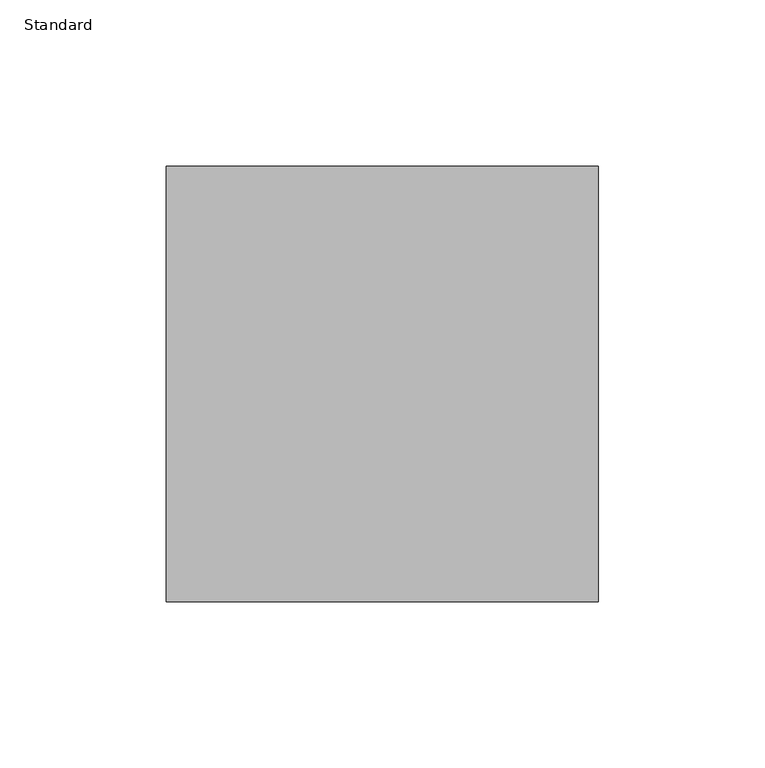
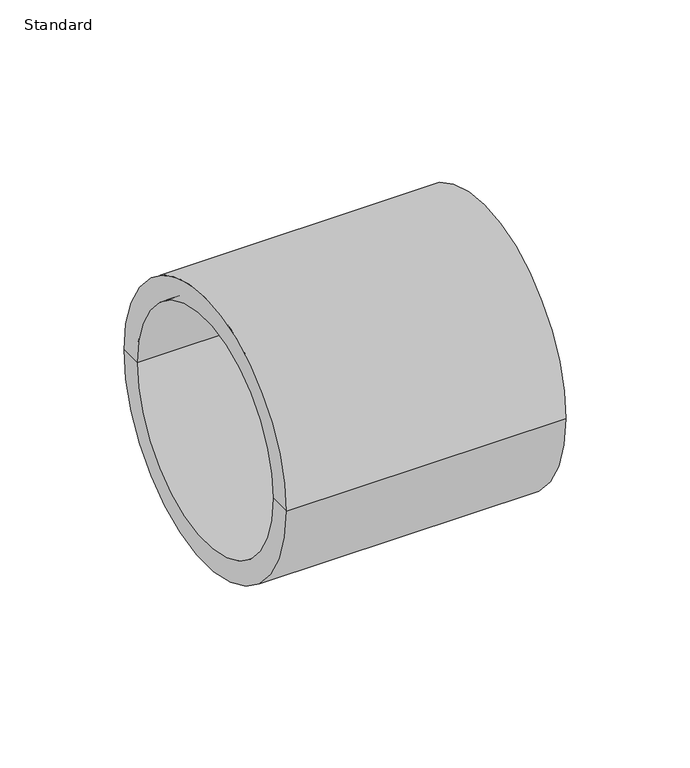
"""IFC4 building model written with IfcOpenShell, lengths in millimetres: pipe fitting geometry, Durapipe_PipeFitting_PVC_Socket : Standard."""

from ifc_helpers import new_model, si_unit, frame, origin, place, context, project, spatial, polyline, circle_curve, source, transform, mapped, element, save
from ifc_brep_helpers import plane_surface, cylinder_surface, revolved_surface, advanced_brep


def standard_6448b392(model_context):
    return source(origin(), model_context, "Body", "AdvancedBrep", [
        advanced_brep(
        [(-65.0, -65.5, 0.0), (-65.0, 65.5, 0.0), (65.0, 65.5, 0.0), (65.0, -65.5, 0.0), (-65.0, -55.0, 0.0), (-65.0, 55.0, 0.0), (4.0, -47.0, 0.0), (4.0, 47.0, 0.0), (-4.0, 47.0, 0.0), (-4.0, -47.0, 0.0), (65.0, 55.0, 0.0), (65.0, -55.0, 0.0), (-4.0, -55.0, 0.0), (-4.0, 55.0, 0.0), (4.0, -55.0, 0.0), (4.0, 55.0, 0.0)],
        [
            (0, 1, circle_curve(frame((-65.0, 0.0, 0.0), z_axis=(1.0, 0.0, 0.0), x_axis=(0.0, 1.0, 0.0)), 65.5)),
            (1, 2),
            (2, 3, circle_curve(frame((65.0, 0.0, 0.0), z_axis=(-1.0, 0.0, 0.0), x_axis=(0.0, 1.0, 0.0)), 65.5)),
            (3, 0),
            (1, 0, circle_curve(frame((-65.0, 0.0, 0.0), z_axis=(1.0, 0.0, 0.0), x_axis=(0.0, 1.0, 0.0)), 65.5)),
            (3, 2, circle_curve(frame((65.0, 0.0, 0.0), z_axis=(-1.0, 0.0, 0.0), x_axis=(0.0, 1.0, 0.0)), 65.5)),
            (4, 5, circle_curve(frame((-65.0, 0.0, 0.0), z_axis=(1.0, 0.0, 0.0), x_axis=(0.0, 1.0, 0.0)), 55.0)),
            (5, 1),
            (0, 4),
            (5, 4, circle_curve(frame((-65.0, 0.0, 0.0), z_axis=(1.0, 0.0, 0.0), x_axis=(0.0, 1.0, 0.0)), 55.0)),
            (6, 7, circle_curve(frame((4.0, 0.0, 0.0), z_axis=(1.0, 0.0, 0.0), x_axis=(0.0, 1.0, 0.0)), 47.0)),
            (7, 8),
            (8, 9, circle_curve(frame((-4.0, 0.0, 0.0), z_axis=(-1.0, 0.0, 0.0), x_axis=(0.0, 1.0, 0.0)), 47.0)),
            (9, 6),
            (7, 6, circle_curve(frame((4.0, 0.0, 0.0), z_axis=(1.0, 0.0, 0.0), x_axis=(0.0, 1.0, 0.0)), 47.0)),
            (9, 8, circle_curve(frame((-4.0, 0.0, 0.0), z_axis=(-1.0, 0.0, 0.0), x_axis=(0.0, 1.0, 0.0)), 47.0)),
            (2, 10),
            (10, 11, circle_curve(frame((65.0, 0.0, 0.0), z_axis=(-1.0, 0.0, 0.0), x_axis=(0.0, 1.0, 0.0)), 55.0)),
            (11, 3),
            (11, 10, circle_curve(frame((65.0, 0.0, 0.0), z_axis=(-1.0, 0.0, 0.0), x_axis=(0.0, 1.0, 0.0)), 55.0)),
            (12, 13, circle_curve(frame((-4.0, 0.0, 0.0), z_axis=(1.0, 0.0, 0.0), x_axis=(0.0, 1.0, 0.0)), 55.0)),
            (13, 5),
            (4, 12),
            (13, 12, circle_curve(frame((-4.0, 0.0, 0.0), z_axis=(1.0, 0.0, 0.0), x_axis=(0.0, 1.0, 0.0)), 55.0)),
            (8, 13),
            (12, 9),
            (14, 15, circle_curve(frame((4.0, 0.0, 0.0), z_axis=(1.0, 0.0, 0.0), x_axis=(0.0, 1.0, 0.0)), 55.0)),
            (15, 7),
            (6, 14),
            (15, 14, circle_curve(frame((4.0, 0.0, 0.0), z_axis=(1.0, 0.0, 0.0), x_axis=(0.0, 1.0, 0.0)), 55.0)),
            (10, 15),
            (14, 11),
        ],
        [
            cylinder_surface(frame((-65.0, 0.0, 0.0), z_axis=(-1.0, 0.0, 0.0), x_axis=(0.0, 1.0, 0.0)), 65.5),
            plane_surface(frame((-65.0, 0.0, 0.0), z_axis=(-1.0, 0.0, 0.0), x_axis=(0.0, 1.0, 0.0))),
            revolved_surface(polyline([(-4.0, 47.0, 0.0), (4.0, 47.0, 0.0)]), (-65.0, 0.0, 0.0), (-1.0, 0.0, 0.0)),
            plane_surface(frame((65.0, 0.0, 0.0), z_axis=(1.0, 0.0, 0.0), x_axis=(0.0, 1.0, 0.0))),
            revolved_surface(polyline([(-65.0, 55.0, 0.0), (-4.0, 55.0, 0.0)]), (-65.0, 0.0, 0.0), (-1.0, 0.0, 0.0)),
            plane_surface(frame((-4.0, 0.0, 0.0), z_axis=(-1.0, 0.0, 0.0), x_axis=(0.0, 1.0, 0.0))),
            plane_surface(frame((4.0, 0.0, 0.0), z_axis=(1.0, 0.0, 0.0), x_axis=(0.0, 1.0, 0.0))),
            revolved_surface(polyline([(4.0, 55.0, 0.0), (65.0, 55.0, 0.0)]), (-65.0, 0.0, 0.0), (-1.0, 0.0, 0.0)),
        ],
        [
            (0, [[1, 2, 3, 4]]),
            (0, [[5, -4, 6, -2]]),
            (1, [[7, 8, -1, 9]]),
            (1, [[10, -9, -5, -8]]),
            (2, [[11, 12, 13, 14]]),
            (2, [[15, -14, 16, -12]]),
            (3, [[-3, 17, 18, 19]]),
            (3, [[-6, -19, 20, -17]]),
            (4, [[21, 22, -7, 23]]),
            (4, [[24, -23, -10, -22]]),
            (5, [[-13, 25, -21, 26]]),
            (5, [[-16, -26, -24, -25]]),
            (6, [[27, 28, -11, 29]]),
            (6, [[30, -29, -15, -28]]),
            (7, [[-18, 31, -27, 32]]),
            (7, [[-20, -32, -30, -31]]),
        ],
    ),
    ])


if __name__ == "__main__":
    model = new_model("IFC4")
    model_context = context("Model", 3, world=origin())
    ifc_project = project(units=[si_unit("LENGTHUNIT", "METRE", prefix="MILLI")], contexts=[model_context])
    site = spatial("IfcSite", under=ifc_project)
    building = spatial("IfcBuilding", under=site)
    placement = place(None, origin())
    standard_shape = standard_6448b392(model_context)
    element("IfcPipeFitting", 1, ObjectType="Durapipe_PipeFitting_PVC_Socket : Standard", at=placement, inside=building, context=model_context, shape_type="MappedRepresentation", body=[
        mapped(standard_shape, transform((0.0, 0.0, 0.0), x_axis=(1.0, 0.0, 0.0), y_axis=(0.0, 1.0, 0.0), z_axis=(0.0, 0.0, 1.0))),
    ])
    save(model, "model.ifc")
